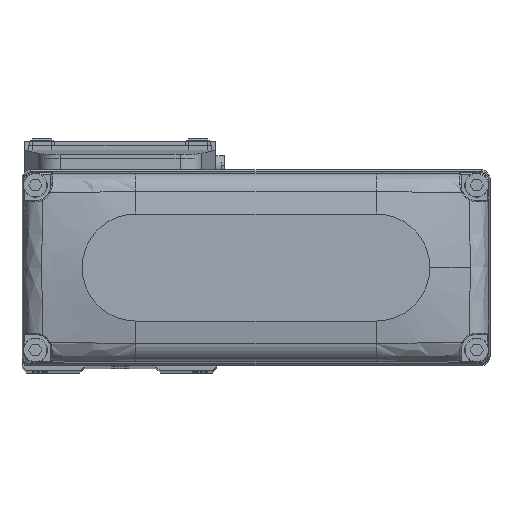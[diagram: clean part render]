
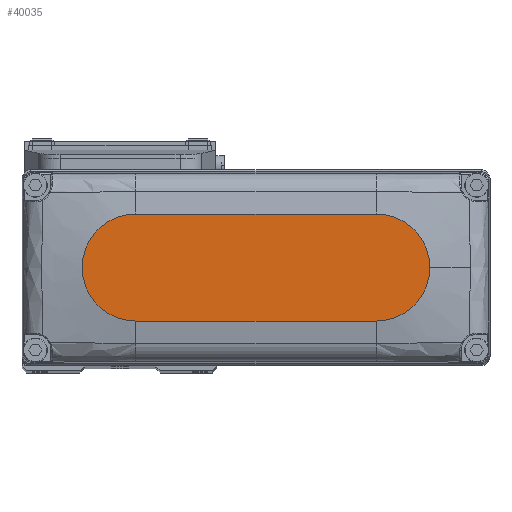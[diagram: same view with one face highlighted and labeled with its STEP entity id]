
A CAD part, top view. The second image highlights one B-rep face of the part: STEP entity #40035.
In plain terms, the highlighted planar face has unit normal (0, 0, 1).
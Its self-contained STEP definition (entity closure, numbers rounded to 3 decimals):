
#3213 = CARTESIAN_POINT ( 'NONE',  ( 27., 12., 25. ) ) ;
#4206 = VERTEX_POINT ( 'NONE', #3213 ) ;
#5821 = CARTESIAN_POINT ( 'NONE',  ( -27., -12., 25. ) ) ;
#8475 = EDGE_CURVE ( 'NONE', #4206, #29572, #68048, .T. ) ;
#9294 = ORIENTED_EDGE ( 'NONE', *, *, #20050, .T. ) ;
#9532 = AXIS2_PLACEMENT_3D ( 'NONE', #68275, #14748, #38564 ) ;
#9780 = CIRCLE ( 'NONE', #63420, 12. ) ;
#10103 = CARTESIAN_POINT ( 'NONE',  ( 27., -12., 25. ) ) ;
#11063 = CIRCLE ( 'NONE', #54729, 12. ) ;
#11197 = CARTESIAN_POINT ( 'NONE',  ( 27., 0., 25. ) ) ;
#11543 = DIRECTION ( 'NONE',  ( 1., 0., 0. ) ) ;
#13618 = CIRCLE ( 'NONE', #57298, 12. ) ;
#14523 = CARTESIAN_POINT ( 'NONE',  ( -27., 12., 25. ) ) ;
#14748 = DIRECTION ( 'NONE',  ( 0., 0., 1. ) ) ;
#17560 = LINE ( 'NONE', #41386, #51996 ) ;
#20050 = EDGE_CURVE ( 'NONE', #28313, #68685, #11063, .T. ) ;
#20495 = EDGE_CURVE ( 'NONE', #68685, #4206, #13618, .T. ) ;
#20606 = FACE_OUTER_BOUND ( 'NONE', #42461, .T. ) ;
#20674 = ORIENTED_EDGE ( 'NONE', *, *, #27092, .T. ) ;
#20692 = CARTESIAN_POINT ( 'NONE',  ( -27., 12., 25. ) ) ;
#23207 = DIRECTION ( 'NONE',  ( 1., 0., 0. ) ) ;
#25743 = EDGE_CURVE ( 'NONE', #29821, #28313, #17560, .T. ) ;
#27092 = EDGE_CURVE ( 'NONE', #29572, #29821, #9780, .T. ) ;
#28313 = VERTEX_POINT ( 'NONE', #10103 ) ;
#29572 = VERTEX_POINT ( 'NONE', #20692 ) ;
#29821 = VERTEX_POINT ( 'NONE', #5821 ) ;
#30474 = CARTESIAN_POINT ( 'NONE',  ( 39., 0., 25. ) ) ;
#35030 = DIRECTION ( 'NONE',  ( 0., 0., 1. ) ) ;
#38340 = DIRECTION ( 'NONE',  ( -1., 0., 0. ) ) ;
#38564 = DIRECTION ( 'NONE',  ( 1., 0., 0. ) ) ;
#40035 = ADVANCED_FACE ( 'NONE', ( #20606 ), #44439, .T. ) ;
#41225 = CARTESIAN_POINT ( 'NONE',  ( -27., 0., 25. ) ) ;
#41386 = CARTESIAN_POINT ( 'NONE',  ( -27., -12., 25. ) ) ;
#41684 = VECTOR ( 'NONE', #38340, 1000. ) ;
#42461 = EDGE_LOOP ( 'NONE', ( #69792, #20674, #51490, #9294, #72733 ) ) ;
#44439 = PLANE ( 'NONE',  #9532 ) ;
#51490 = ORIENTED_EDGE ( 'NONE', *, *, #25743, .T. ) ;
#51996 = VECTOR ( 'NONE', #65231, 1000. ) ;
#52900 = CARTESIAN_POINT ( 'NONE',  ( 27., 0., 25. ) ) ;
#54729 = AXIS2_PLACEMENT_3D ( 'NONE', #11197, #35030, #58873 ) ;
#57298 = AXIS2_PLACEMENT_3D ( 'NONE', #52900, #76719, #23207 ) ;
#58873 = DIRECTION ( 'NONE',  ( 1., 0., 0. ) ) ;
#63420 = AXIS2_PLACEMENT_3D ( 'NONE', #41225, #65065, #11543 ) ;
#65065 = DIRECTION ( 'NONE',  ( 0., 0., 1. ) ) ;
#65231 = DIRECTION ( 'NONE',  ( 1., 0., 0. ) ) ;
#68048 = LINE ( 'NONE', #14523, #41684 ) ;
#68275 = CARTESIAN_POINT ( 'NONE',  ( 0., 0., 25. ) ) ;
#68685 = VERTEX_POINT ( 'NONE', #30474 ) ;
#69792 = ORIENTED_EDGE ( 'NONE', *, *, #8475, .T. ) ;
#72733 = ORIENTED_EDGE ( 'NONE', *, *, #20495, .T. ) ;
#76719 = DIRECTION ( 'NONE',  ( 0., 0., 1. ) ) ;
